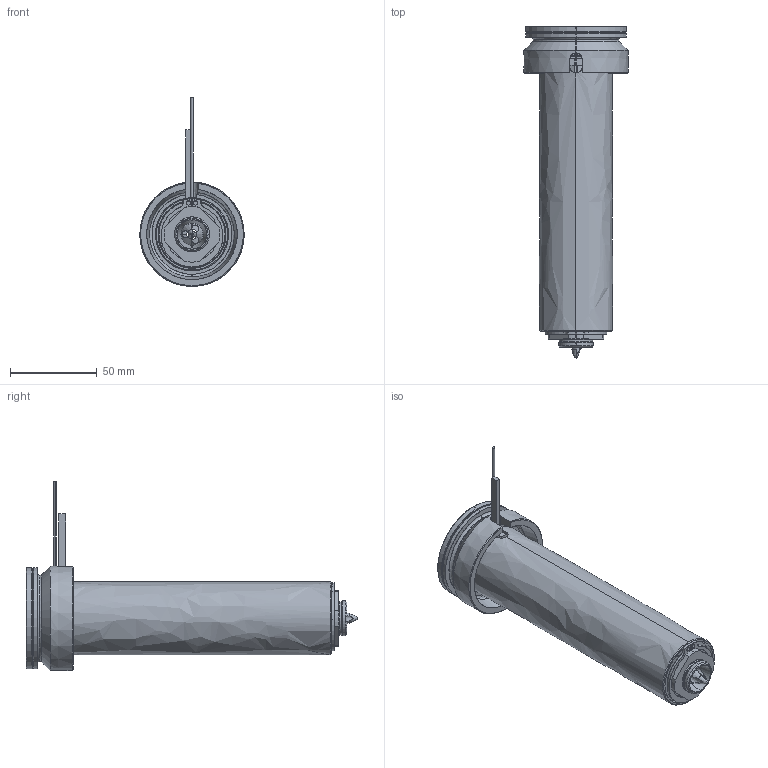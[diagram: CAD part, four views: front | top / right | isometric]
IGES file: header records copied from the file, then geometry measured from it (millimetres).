
Start section: SolidWorks IGES file using analytic representation for surfaces
Global section: file name: C:\Documents and Settings\ws-20\Desktop\TEM\UGEP6007-S-A-0 [Øf-1.3 ØC-15].IGS; native system: SolidWorks 2012; preprocessor: SolidWorks 2012; author: ws-20; date: 120427.093024; units: millimetre
Bounding box: 60 x 190.8 x 108.65 mm (x, y, z)
Surface area: 83822 mm2 (no closed solid volume)
Topology: 0 solids, 0 shells, 129 faces, 2459 edges, 2459 vertices
Faces by surface type: revolution 85, bspline 44
